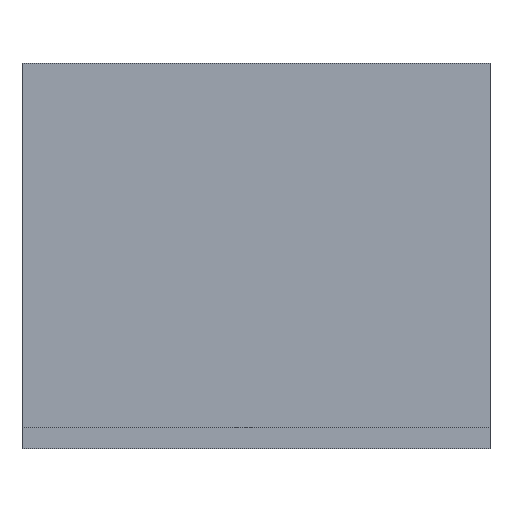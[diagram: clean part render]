
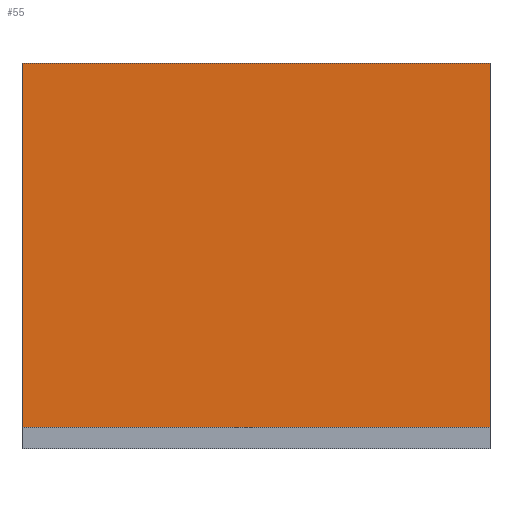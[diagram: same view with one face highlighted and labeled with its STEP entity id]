
A CAD part, front view. The second image highlights one B-rep face of the part: STEP entity #55.
In plain terms, the highlighted planar face has unit normal (0, -1, 0).
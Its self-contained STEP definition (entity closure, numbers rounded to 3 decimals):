
#55 = ADVANCED_FACE('',(#56),#70,.F.);
#56 = FACE_BOUND('',#57,.F.);
#57 = EDGE_LOOP('',(#58,#93,#121,#149));
#58 = ORIENTED_EDGE('',*,*,#59,.T.);
#59 = EDGE_CURVE('',#60,#62,#64,.T.);
#60 = VERTEX_POINT('',#61);
#61 = CARTESIAN_POINT('',(0.,0.,0.));
#62 = VERTEX_POINT('',#63);
#63 = CARTESIAN_POINT('',(0.,0.,21.));
#64 = SURFACE_CURVE('',#65,(#69,#81),.PCURVE_S1.);
#65 = LINE('',#66,#67);
#66 = CARTESIAN_POINT('',(0.,0.,0.));
#67 = VECTOR('',#68,1.);
#68 = DIRECTION('',(0.,0.,1.));
#69 = PCURVE('',#70,#75);
#70 = PLANE('',#71);
#71 = AXIS2_PLACEMENT_3D('',#72,#73,#74);
#72 = CARTESIAN_POINT('',(0.,0.,0.));
#73 = DIRECTION('',(0.,1.,0.));
#74 = DIRECTION('',(1.,0.,0.));
#75 = DEFINITIONAL_REPRESENTATION('',(#76),#80);
#76 = LINE('',#77,#78);
#77 = CARTESIAN_POINT('',(0.,0.));
#78 = VECTOR('',#79,1.);
#79 = DIRECTION('',(0.,-1.));
#80 = ( GEOMETRIC_REPRESENTATION_CONTEXT(2) 
PARAMETRIC_REPRESENTATION_CONTEXT() REPRESENTATION_CONTEXT('2D SPACE',''
  ) );
#81 = PCURVE('',#82,#87);
#82 = PLANE('',#83);
#83 = AXIS2_PLACEMENT_3D('',#84,#85,#86);
#84 = CARTESIAN_POINT('',(0.,17.,0.));
#85 = DIRECTION('',(1.,0.,0.));
#86 = DIRECTION('',(0.,-1.,0.));
#87 = DEFINITIONAL_REPRESENTATION('',(#88),#92);
#88 = LINE('',#89,#90);
#89 = CARTESIAN_POINT('',(17.,0.));
#90 = VECTOR('',#91,1.);
#91 = DIRECTION('',(0.,-1.));
#92 = ( GEOMETRIC_REPRESENTATION_CONTEXT(2) 
PARAMETRIC_REPRESENTATION_CONTEXT() REPRESENTATION_CONTEXT('2D SPACE',''
  ) );
#93 = ORIENTED_EDGE('',*,*,#94,.T.);
#94 = EDGE_CURVE('',#62,#95,#97,.T.);
#95 = VERTEX_POINT('',#96);
#96 = CARTESIAN_POINT('',(27.,0.,21.));
#97 = SURFACE_CURVE('',#98,(#102,#109),.PCURVE_S1.);
#98 = LINE('',#99,#100);
#99 = CARTESIAN_POINT('',(0.,0.,21.));
#100 = VECTOR('',#101,1.);
#101 = DIRECTION('',(1.,0.,0.));
#102 = PCURVE('',#70,#103);
#103 = DEFINITIONAL_REPRESENTATION('',(#104),#108);
#104 = LINE('',#105,#106);
#105 = CARTESIAN_POINT('',(0.,-21.));
#106 = VECTOR('',#107,1.);
#107 = DIRECTION('',(1.,0.));
#108 = ( GEOMETRIC_REPRESENTATION_CONTEXT(2) 
PARAMETRIC_REPRESENTATION_CONTEXT() REPRESENTATION_CONTEXT('2D SPACE',''
  ) );
#109 = PCURVE('',#110,#115);
#110 = PLANE('',#111);
#111 = AXIS2_PLACEMENT_3D('',#112,#113,#114);
#112 = CARTESIAN_POINT('',(13.5,8.5,21.));
#113 = DIRECTION('',(0.,0.,1.));
#114 = DIRECTION('',(1.,0.,0.));
#115 = DEFINITIONAL_REPRESENTATION('',(#116),#120);
#116 = LINE('',#117,#118);
#117 = CARTESIAN_POINT('',(-13.5,-8.5));
#118 = VECTOR('',#119,1.);
#119 = DIRECTION('',(1.,0.));
#120 = ( GEOMETRIC_REPRESENTATION_CONTEXT(2) 
PARAMETRIC_REPRESENTATION_CONTEXT() REPRESENTATION_CONTEXT('2D SPACE',''
  ) );
#121 = ORIENTED_EDGE('',*,*,#122,.F.);
#122 = EDGE_CURVE('',#123,#95,#125,.T.);
#123 = VERTEX_POINT('',#124);
#124 = CARTESIAN_POINT('',(27.,0.,0.));
#125 = SURFACE_CURVE('',#126,(#130,#137),.PCURVE_S1.);
#126 = LINE('',#127,#128);
#127 = CARTESIAN_POINT('',(27.,0.,0.));
#128 = VECTOR('',#129,1.);
#129 = DIRECTION('',(0.,0.,1.));
#130 = PCURVE('',#70,#131);
#131 = DEFINITIONAL_REPRESENTATION('',(#132),#136);
#132 = LINE('',#133,#134);
#133 = CARTESIAN_POINT('',(27.,0.));
#134 = VECTOR('',#135,1.);
#135 = DIRECTION('',(0.,-1.));
#136 = ( GEOMETRIC_REPRESENTATION_CONTEXT(2) 
PARAMETRIC_REPRESENTATION_CONTEXT() REPRESENTATION_CONTEXT('2D SPACE',''
  ) );
#137 = PCURVE('',#138,#143);
#138 = PLANE('',#139);
#139 = AXIS2_PLACEMENT_3D('',#140,#141,#142);
#140 = CARTESIAN_POINT('',(27.,0.,0.));
#141 = DIRECTION('',(-1.,0.,0.));
#142 = DIRECTION('',(0.,1.,0.));
#143 = DEFINITIONAL_REPRESENTATION('',(#144),#148);
#144 = LINE('',#145,#146);
#145 = CARTESIAN_POINT('',(0.,0.));
#146 = VECTOR('',#147,1.);
#147 = DIRECTION('',(0.,-1.));
#148 = ( GEOMETRIC_REPRESENTATION_CONTEXT(2) 
PARAMETRIC_REPRESENTATION_CONTEXT() REPRESENTATION_CONTEXT('2D SPACE',''
  ) );
#149 = ORIENTED_EDGE('',*,*,#150,.F.);
#150 = EDGE_CURVE('',#60,#123,#151,.T.);
#151 = SURFACE_CURVE('',#152,(#156,#163),.PCURVE_S1.);
#152 = LINE('',#153,#154);
#153 = CARTESIAN_POINT('',(0.,0.,0.));
#154 = VECTOR('',#155,1.);
#155 = DIRECTION('',(1.,0.,0.));
#156 = PCURVE('',#70,#157);
#157 = DEFINITIONAL_REPRESENTATION('',(#158),#162);
#158 = LINE('',#159,#160);
#159 = CARTESIAN_POINT('',(0.,0.));
#160 = VECTOR('',#161,1.);
#161 = DIRECTION('',(1.,0.));
#162 = ( GEOMETRIC_REPRESENTATION_CONTEXT(2) 
PARAMETRIC_REPRESENTATION_CONTEXT() REPRESENTATION_CONTEXT('2D SPACE',''
  ) );
#163 = PCURVE('',#164,#169);
#164 = PLANE('',#165);
#165 = AXIS2_PLACEMENT_3D('',#166,#167,#168);
#166 = CARTESIAN_POINT('',(0.,0.,0.));
#167 = DIRECTION('',(0.,-1.,0.));
#168 = DIRECTION('',(1.,0.,0.));
#169 = DEFINITIONAL_REPRESENTATION('',(#170),#174);
#170 = LINE('',#171,#172);
#171 = CARTESIAN_POINT('',(0.,0.));
#172 = VECTOR('',#173,1.);
#173 = DIRECTION('',(1.,0.));
#174 = ( GEOMETRIC_REPRESENTATION_CONTEXT(2) 
PARAMETRIC_REPRESENTATION_CONTEXT() REPRESENTATION_CONTEXT('2D SPACE',''
  ) );
